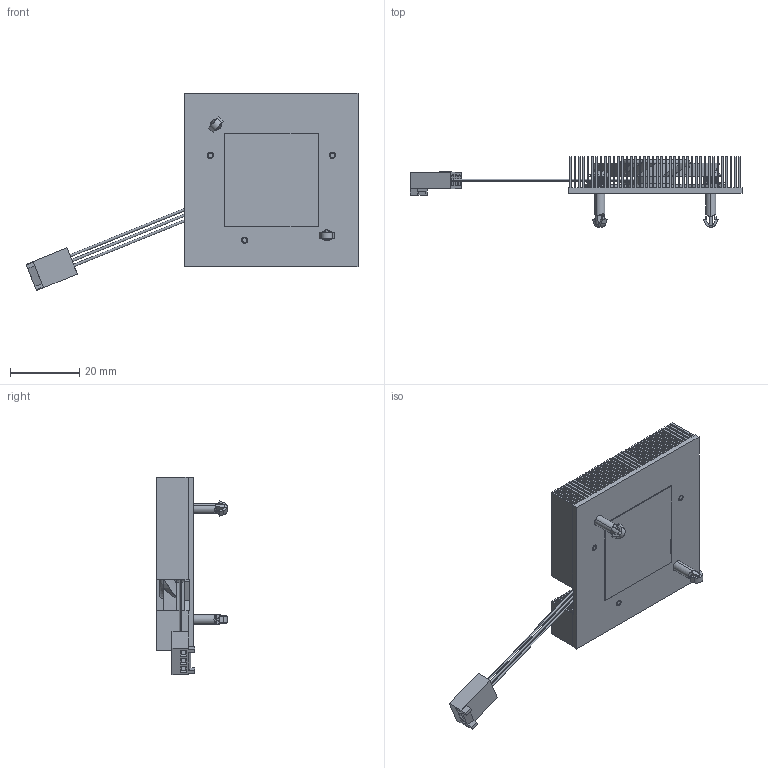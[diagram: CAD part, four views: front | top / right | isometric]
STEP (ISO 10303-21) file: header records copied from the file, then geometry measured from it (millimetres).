
FILE_DESCRIPTION (( 'STEP AP214' ), '1' );
FILE_NAME ('SC05S+P.STEP', '2023-03-02T23:14:27', ( '' ), ( '' ), 'SwSTEP 2.0', 'SolidWorks 2020', '' );
FILE_SCHEMA (( 'AUTOMOTIVE_DESIGN' ));
Length unit declared in the file: millimetre
Products named in the file (1): SC05S+P
Bounding box: 95.83 x 20.3 x 56.92 mm (x, y, z)
Volume: 9356.9 mm3; surface area: 24646 mm2
Topology: 45 solids, 45 shells, 1225 faces, 3274 edges, 2139 vertices
Faces by surface type: plane 782, bspline 222, cylinder 159, cone 60, torus 2
Entity records: 67376 total; most frequent: CARTESIAN_POINT 24712, ORIENTED_EDGE 6520, DIRECTION 4967, EDGE_CURVE 3260, LINE 2157, VECTOR 2157, VERTEX_POINT 2139, AXIS2_PLACEMENT_3D 1405
